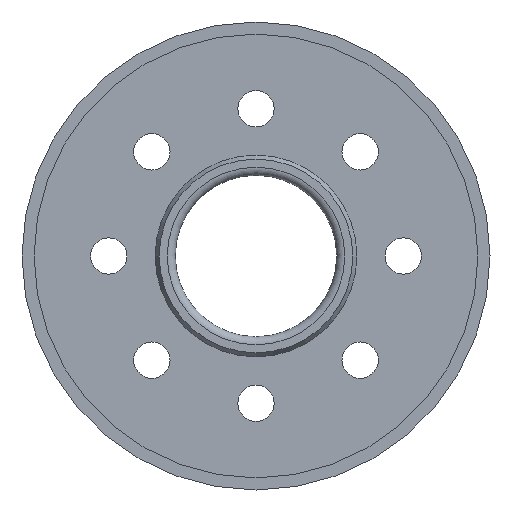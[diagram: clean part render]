
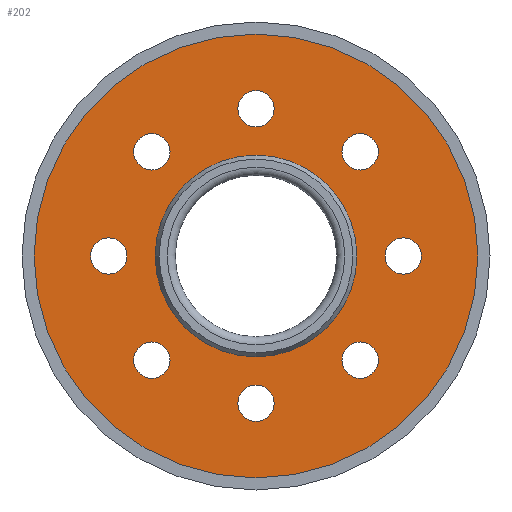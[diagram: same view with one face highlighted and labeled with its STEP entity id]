
A CAD part, front view. The second image highlights one B-rep face of the part: STEP entity #202.
In plain terms, the highlighted planar face has unit normal (0, -1, 0).
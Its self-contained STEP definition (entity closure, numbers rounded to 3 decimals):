
#14 = CIRCLE ( 'NONE', #1887, 4.5 ) ;
#89 = CIRCLE ( 'NONE', #4067, 4.5 ) ;
#111 = CARTESIAN_POINT ( 'NONE',  ( -55., -33.2, 0. ) ) ;
#115 = EDGE_LOOP ( 'NONE', ( #3105 ) ) ;
#162 = AXIS2_PLACEMENT_3D ( 'NONE', #1352, #3927, #1734 ) ;
#198 = DIRECTION ( 'NONE',  ( 0., -1., 0. ) ) ;
#202 = ADVANCED_FACE ( 'NONE', ( #738, #3659, #2903, #1458, #4304, #3984, #392, #4327, #2930, #1510 ), #2551, .T. ) ;
#369 = EDGE_LOOP ( 'NONE', ( #2907 ) ) ;
#390 = CARTESIAN_POINT ( 'NONE',  ( 36.5, -33.2, -4.5 ) ) ;
#392 = FACE_BOUND ( 'NONE', #4386, .T. ) ;
#415 = DIRECTION ( 'NONE',  ( 0., 0., -1. ) ) ;
#447 = EDGE_LOOP ( 'NONE', ( #2822 ) ) ;
#450 = AXIS2_PLACEMENT_3D ( 'NONE', #1170, #2641, #2615 ) ;
#526 = ORIENTED_EDGE ( 'NONE', *, *, #994, .F. ) ;
#551 = CARTESIAN_POINT ( 'NONE',  ( -25.809, -33.2, 25.809 ) ) ;
#576 = VERTEX_POINT ( 'NONE', #921 ) ;
#599 = AXIS2_PLACEMENT_3D ( 'NONE', #3874, #3241, #1389 ) ;
#717 = DIRECTION ( 'NONE',  ( 0., -1., 0. ) ) ;
#738 = FACE_BOUND ( 'NONE', #3677, .T. ) ;
#783 = DIRECTION ( 'NONE',  ( 0., 0., -1. ) ) ;
#809 = CARTESIAN_POINT ( 'NONE',  ( -25.809, -33.2, -30.309 ) ) ;
#825 = EDGE_CURVE ( 'NONE', #1436, #1436, #2022, .T. ) ;
#921 = CARTESIAN_POINT ( 'NONE',  ( 0., -33.2, 25. ) ) ;
#994 = EDGE_CURVE ( 'NONE', #3894, #3894, #4646, .T. ) ;
#1080 = DIRECTION ( 'NONE',  ( 0., 0., 1. ) ) ;
#1111 = EDGE_LOOP ( 'NONE', ( #526 ) ) ;
#1125 = CIRCLE ( 'NONE', #3773, 55. ) ;
#1128 = DIRECTION ( 'NONE',  ( 0., -1., 0. ) ) ;
#1170 = CARTESIAN_POINT ( 'NONE',  ( 25.809, -33.2, 25.809 ) ) ;
#1251 = EDGE_CURVE ( 'NONE', #2881, #2881, #4202, .T. ) ;
#1265 = CARTESIAN_POINT ( 'NONE',  ( 25.809, -33.2, -25.809 ) ) ;
#1281 = EDGE_CURVE ( 'NONE', #4278, #4278, #4650, .T. ) ;
#1314 = DIRECTION ( 'NONE',  ( 0., -1., 0. ) ) ;
#1352 = CARTESIAN_POINT ( 'NONE',  ( -36.5, -33.2, 0. ) ) ;
#1389 = DIRECTION ( 'NONE',  ( 0., 0., -1. ) ) ;
#1405 = DIRECTION ( 'NONE',  ( 0., -1., 0. ) ) ;
#1430 = EDGE_LOOP ( 'NONE', ( #3747 ) ) ;
#1436 = VERTEX_POINT ( 'NONE', #390 ) ;
#1446 = ORIENTED_EDGE ( 'NONE', *, *, #4411, .F. ) ;
#1458 = FACE_BOUND ( 'NONE', #447, .T. ) ;
#1496 = AXIS2_PLACEMENT_3D ( 'NONE', #2574, #4008, #1080 ) ;
#1510 = FACE_OUTER_BOUND ( 'NONE', #2818, .T. ) ;
#1617 = DIRECTION ( 'NONE',  ( 0., 0., -1. ) ) ;
#1734 = DIRECTION ( 'NONE',  ( 0., 0., -1. ) ) ;
#1765 = CARTESIAN_POINT ( 'NONE',  ( 0., -33.2, 36.5 ) ) ;
#1768 = CARTESIAN_POINT ( 'NONE',  ( -25.809, -33.2, 21.309 ) ) ;
#1797 = AXIS2_PLACEMENT_3D ( 'NONE', #1765, #1128, #2524 ) ;
#1887 = AXIS2_PLACEMENT_3D ( 'NONE', #1265, #1937, #3422 ) ;
#1937 = DIRECTION ( 'NONE',  ( 0., -1., 0. ) ) ;
#2022 = CIRCLE ( 'NONE', #599, 4.5 ) ;
#2091 = AXIS2_PLACEMENT_3D ( 'NONE', #111, #717, #415 ) ;
#2125 = CARTESIAN_POINT ( 'NONE',  ( 0., -33.2, 55. ) ) ;
#2132 = CARTESIAN_POINT ( 'NONE',  ( -36.5, -33.2, -4.5 ) ) ;
#2141 = DIRECTION ( 'NONE',  ( 0., 1., 0. ) ) ;
#2186 = AXIS2_PLACEMENT_3D ( 'NONE', #551, #198, #1617 ) ;
#2218 = ORIENTED_EDGE ( 'NONE', *, *, #2553, .F. ) ;
#2338 = CIRCLE ( 'NONE', #1496, 25. ) ;
#2373 = ORIENTED_EDGE ( 'NONE', *, *, #4131, .F. ) ;
#2436 = EDGE_CURVE ( 'NONE', #3682, #3682, #89, .T. ) ;
#2465 = EDGE_CURVE ( 'NONE', #4351, #4351, #4274, .T. ) ;
#2467 = CARTESIAN_POINT ( 'NONE',  ( 0., -33.2, 0. ) ) ;
#2524 = DIRECTION ( 'NONE',  ( 0., 0., -1. ) ) ;
#2551 = PLANE ( 'NONE',  #2091 ) ;
#2553 = EDGE_CURVE ( 'NONE', #3658, #3658, #3022, .T. ) ;
#2574 = CARTESIAN_POINT ( 'NONE',  ( 0., -33.2, 0. ) ) ;
#2615 = DIRECTION ( 'NONE',  ( 0., 0., -1. ) ) ;
#2641 = DIRECTION ( 'NONE',  ( 0., -1., 0. ) ) ;
#2737 = VERTEX_POINT ( 'NONE', #4169 ) ;
#2818 = EDGE_LOOP ( 'NONE', ( #1446 ) ) ;
#2822 = ORIENTED_EDGE ( 'NONE', *, *, #2465, .F. ) ;
#2881 = VERTEX_POINT ( 'NONE', #1768 ) ;
#2897 = EDGE_LOOP ( 'NONE', ( #2921 ) ) ;
#2902 = CARTESIAN_POINT ( 'NONE',  ( 25.809, -33.2, 21.309 ) ) ;
#2903 = FACE_BOUND ( 'NONE', #1111, .T. ) ;
#2907 = ORIENTED_EDGE ( 'NONE', *, *, #3271, .T. ) ;
#2921 = ORIENTED_EDGE ( 'NONE', *, *, #1251, .F. ) ;
#2930 = FACE_BOUND ( 'NONE', #369, .T. ) ;
#3022 = CIRCLE ( 'NONE', #3466, 4.5 ) ;
#3105 = ORIENTED_EDGE ( 'NONE', *, *, #825, .F. ) ;
#3186 = VERTEX_POINT ( 'NONE', #2125 ) ;
#3241 = DIRECTION ( 'NONE',  ( 0., -1., 0. ) ) ;
#3271 = EDGE_CURVE ( 'NONE', #576, #576, #2338, .T. ) ;
#3378 = CARTESIAN_POINT ( 'NONE',  ( 0., -33.2, -41. ) ) ;
#3422 = DIRECTION ( 'NONE',  ( 0., 0., -1. ) ) ;
#3466 = AXIS2_PLACEMENT_3D ( 'NONE', #3655, #1405, #783 ) ;
#3653 = EDGE_LOOP ( 'NONE', ( #2218 ) ) ;
#3655 = CARTESIAN_POINT ( 'NONE',  ( 0., -33.2, -36.5 ) ) ;
#3658 = VERTEX_POINT ( 'NONE', #3378 ) ;
#3659 = FACE_BOUND ( 'NONE', #115, .T. ) ;
#3677 = EDGE_LOOP ( 'NONE', ( #2373 ) ) ;
#3682 = VERTEX_POINT ( 'NONE', #809 ) ;
#3731 = CARTESIAN_POINT ( 'NONE',  ( 0., -33.2, 32. ) ) ;
#3747 = ORIENTED_EDGE ( 'NONE', *, *, #1281, .F. ) ;
#3773 = AXIS2_PLACEMENT_3D ( 'NONE', #2467, #2141, #3926 ) ;
#3874 = CARTESIAN_POINT ( 'NONE',  ( 36.5, -33.2, 0. ) ) ;
#3894 = VERTEX_POINT ( 'NONE', #2902 ) ;
#3926 = DIRECTION ( 'NONE',  ( 0., 0., 1. ) ) ;
#3927 = DIRECTION ( 'NONE',  ( 0., -1., 0. ) ) ;
#3984 = FACE_BOUND ( 'NONE', #1430, .T. ) ;
#4008 = DIRECTION ( 'NONE',  ( 0., 1., 0. ) ) ;
#4022 = ORIENTED_EDGE ( 'NONE', *, *, #2436, .F. ) ;
#4067 = AXIS2_PLACEMENT_3D ( 'NONE', #4541, #1314, #4190 ) ;
#4131 = EDGE_CURVE ( 'NONE', #2737, #2737, #14, .T. ) ;
#4169 = CARTESIAN_POINT ( 'NONE',  ( 25.809, -33.2, -30.309 ) ) ;
#4190 = DIRECTION ( 'NONE',  ( 0., 0., -1. ) ) ;
#4202 = CIRCLE ( 'NONE', #2186, 4.5 ) ;
#4274 = CIRCLE ( 'NONE', #1797, 4.5 ) ;
#4278 = VERTEX_POINT ( 'NONE', #2132 ) ;
#4304 = FACE_BOUND ( 'NONE', #2897, .T. ) ;
#4327 = FACE_BOUND ( 'NONE', #3653, .T. ) ;
#4351 = VERTEX_POINT ( 'NONE', #3731 ) ;
#4386 = EDGE_LOOP ( 'NONE', ( #4022 ) ) ;
#4411 = EDGE_CURVE ( 'NONE', #3186, #3186, #1125, .T. ) ;
#4541 = CARTESIAN_POINT ( 'NONE',  ( -25.809, -33.2, -25.809 ) ) ;
#4646 = CIRCLE ( 'NONE', #450, 4.5 ) ;
#4650 = CIRCLE ( 'NONE', #162, 4.5 ) ;
